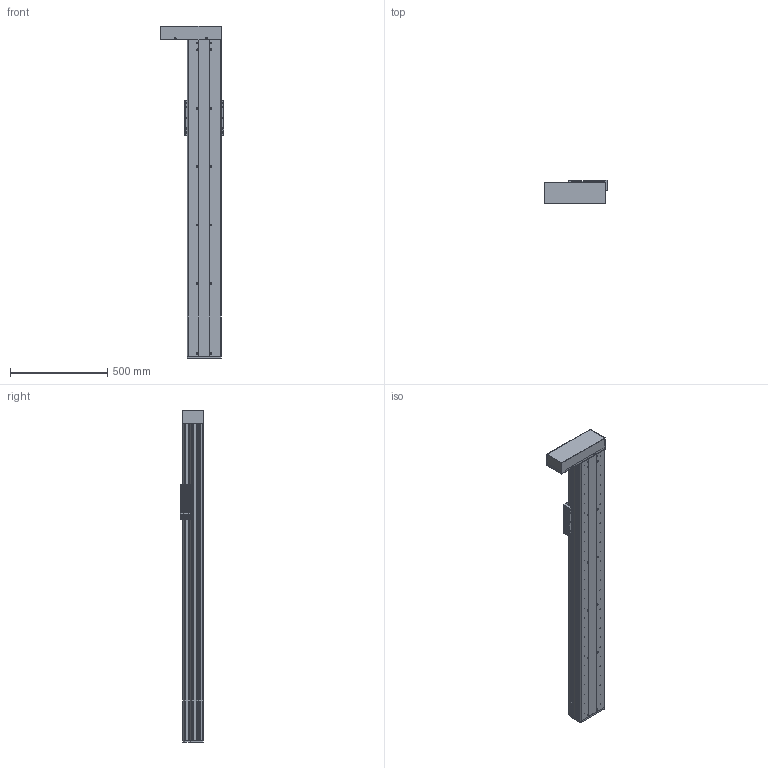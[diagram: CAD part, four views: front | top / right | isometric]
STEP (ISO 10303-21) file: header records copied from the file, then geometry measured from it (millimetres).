
FILE_DESCRIPTION (( 'STEP AP214' ), '1' );
FILE_NAME ('CF175B-C-1350-FWL.STEP', '2020-01-02T01:09:57', ( '微软用户' ), ( '微软中国' ), 'SwSTEP 2.0', 'SolidWorks 2016', '' );
FILE_SCHEMA (( 'AUTOMOTIVE_DESIGN' ));
Length unit declared in the file: millimetre
Products named in the file (12): EGR20絳寢-1350; 175B臏倰第-1350; CF175B-1350; CF175-2蹟譫釱; 175-2盓傅釱; 175-2耜啣; CF-EGH20CA賑輸; CF175B-C-1350-FWL; 肮祭謫欶; 175B殏俔萇儂啣; 175-2同步带从动端固定座; CF175-2賑雄啣
Assembly tree (15 placements, depth 2):
  CF175B-C-1350-FWL
    CF-EGH20CA賑輸  x4
    175-2耜啣
    175-2盓傅釱
    CF175-2蹟譫釱
    CF175B-1350
    175B臏倰第-1350
    EGR20絳寢-1350  x2
    CF175-2賑雄啣
    175-2同步带从动端固定座
    175B殏俔萇儂啣
    肮祭謫欶
Bounding box: 324.5 x 118.3 x 1705 mm (x, y, z)
Volume: 11225417 mm3; surface area: 3383716.8 mm2
Topology: 21 solids, 21 shells, 1566 faces, 4013 edges, 2661 vertices
Faces by surface type: cylinder 843, plane 713, cone 8, bspline 2
Entity records: 38804 total; most frequent: DIRECTION 6681, CARTESIAN_POINT 6390, ORIENTED_EDGE 6000, EDGE_CURVE 3000, AXIS2_PLACEMENT_3D 2524, VERTEX_POINT 1993, VECTOR 1633, LINE 1633
